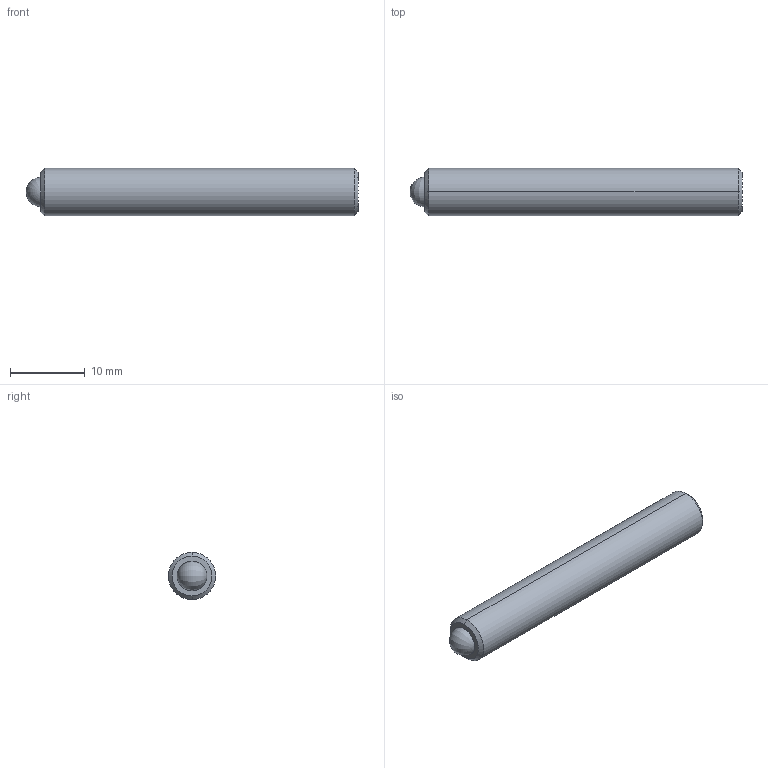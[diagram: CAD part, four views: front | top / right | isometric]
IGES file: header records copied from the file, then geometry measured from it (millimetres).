
Start section: SolidWorks IGES file using analytic representation for surfaces
Global section: file name: C:\Users\workpc\Desktop\KMA Solidworks\TS250-80-1750.IGS; native system: SolidWorks 2013; preprocessor: SolidWorks 2013; author: workpc; date: 130211.123413; units: inch
Bounding box: 44.45 x 6.35 x 6.35 mm (x, y, z)
Surface area: 991 mm2 (no closed solid volume)
Topology: 0 solids, 0 shells, 20 faces, 204 edges, 200 vertices
Faces by surface type: revolution 10, bspline 10
